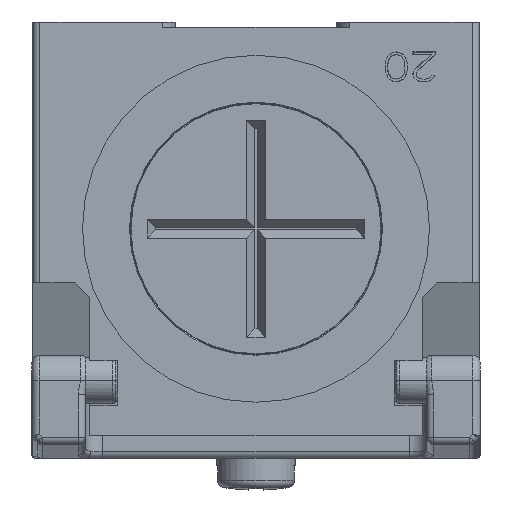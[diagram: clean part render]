
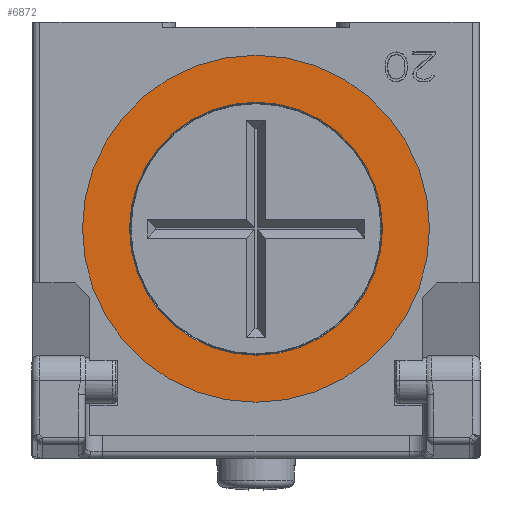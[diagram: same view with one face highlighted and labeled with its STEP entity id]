
A CAD part, front view. The second image highlights one B-rep face of the part: STEP entity #6872.
In plain terms, the highlighted planar face has unit normal (0, -1, 0) as drawn and (-1, 0, 0) by its records, which use the part's own axes.
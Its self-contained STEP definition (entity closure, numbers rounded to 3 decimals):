
#2061=PLANE('',#21357);
#6872=ADVANCED_FACE('',(#7367,#7368),#2061,.F.);
#7367=FACE_BOUND('',#8490,.T.);
#7368=FACE_BOUND('',#8491,.T.);
#8490=EDGE_LOOP('',(#14049,#14050));
#8491=EDGE_LOOP('',(#14051,#14052));
#14049=ORIENTED_EDGE('',*,*,#18728,.F.);
#14050=ORIENTED_EDGE('',*,*,#18726,.T.);
#14051=ORIENTED_EDGE('',*,*,#18729,.T.);
#14052=ORIENTED_EDGE('',*,*,#18730,.T.);
#15927=VERTEX_POINT('',#36693);
#15928=VERTEX_POINT('',#36695);
#15929=VERTEX_POINT('',#36701);
#15930=VERTEX_POINT('',#36702);
#18726=EDGE_CURVE('',#15928,#15927,#19537,.T.);
#18728=EDGE_CURVE('',#15928,#15927,#19538,.T.);
#18729=EDGE_CURVE('',#15929,#15930,#19539,.T.);
#18730=EDGE_CURVE('',#15930,#15929,#19540,.T.);
#19537=CIRCLE('',#21351,12.);
#19538=CIRCLE('',#21353,12.);
#19539=CIRCLE('',#21355,8.75);
#19540=CIRCLE('',#21356,8.75);
#21351=AXIS2_PLACEMENT_3D('',#36694,#26695,#26696);
#21353=AXIS2_PLACEMENT_3D('',#36698,#26700,#26701);
#21355=AXIS2_PLACEMENT_3D('',#36700,#26704,#26705);
#21356=AXIS2_PLACEMENT_3D('',#36703,#26706,#26707);
#21357=AXIS2_PLACEMENT_3D('',#36704,#26708,#26709);
#26695=DIRECTION('',(-1.,0.,0.));
#26696=DIRECTION('',(0.,1.,0.));
#26700=DIRECTION('',(1.,0.,0.));
#26701=DIRECTION('',(0.,1.,0.));
#26704=DIRECTION('',(1.,0.,0.));
#26705=DIRECTION('',(0.,-1.,0.));
#26706=DIRECTION('',(1.,0.,0.));
#26707=DIRECTION('',(0.,1.,0.));
#26708=DIRECTION('',(1.,0.,0.));
#26709=DIRECTION('',(0.,-1.,0.));
#36693=CARTESIAN_POINT('',(0.,-12.,0.));
#36694=CARTESIAN_POINT('',(0.,0.,0.));
#36695=CARTESIAN_POINT('',(0.,12.,0.));
#36698=CARTESIAN_POINT('',(0.,0.,0.));
#36700=CARTESIAN_POINT('',(0.,0.,0.));
#36701=CARTESIAN_POINT('',(0.,-8.75,0.));
#36702=CARTESIAN_POINT('',(0.,8.75,0.));
#36703=CARTESIAN_POINT('',(0.,0.,0.));
#36704=CARTESIAN_POINT('',(0.,0.,0.));
